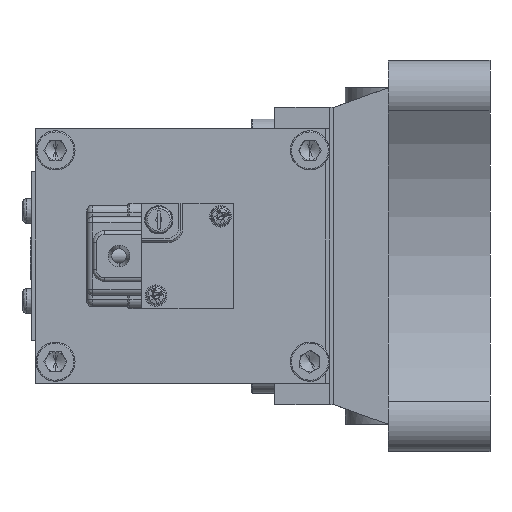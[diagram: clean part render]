
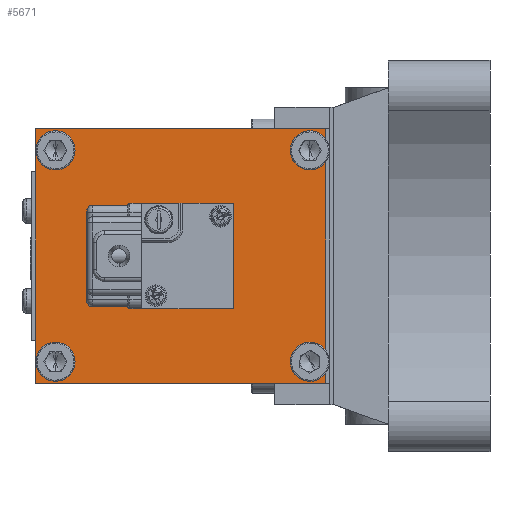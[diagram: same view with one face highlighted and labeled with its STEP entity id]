
A CAD part, left-side view. The second image highlights one B-rep face of the part: STEP entity #5671.
In plain terms, the highlighted planar face has unit normal (-1, 0, 0) as drawn and (1, 0, 0) by its records, which use the part's own axes.
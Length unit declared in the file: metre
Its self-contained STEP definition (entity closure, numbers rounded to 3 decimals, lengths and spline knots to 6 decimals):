
#32 = CIRCLE ( 'NONE', #3432, 0.003 ) ;
#374 = DIRECTION ( 'NONE',  ( 0., 1., 0. ) ) ;
#535 = CARTESIAN_POINT ( 'NONE',  ( 0.08, 0.071, -0.027 ) ) ;
#551 = FACE_BOUND ( 'NONE', #6384, .T. ) ;
#1330 = VERTEX_POINT ( 'NONE', #6380 ) ;
#1371 = DIRECTION ( 'NONE',  ( 1., 0., 0. ) ) ;
#1398 = AXIS2_PLACEMENT_3D ( 'NONE', #13191, #5459, #14524 ) ;
#1767 = DIRECTION ( 'NONE',  ( 1., 0., 0. ) ) ;
#1847 = DIRECTION ( 'NONE',  ( 0., 0., -1. ) ) ;
#1893 = AXIS2_PLACEMENT_3D ( 'NONE', #5288, #14343, #6581 ) ;
#1949 = ORIENTED_EDGE ( 'NONE', *, *, #5093, .F. ) ;
#2133 = ORIENTED_EDGE ( 'NONE', *, *, #5177, .F. ) ;
#2292 = CARTESIAN_POINT ( 'NONE',  ( 0.08, 0.071, -0.027 ) ) ;
#2567 = CARTESIAN_POINT ( 'NONE',  ( 0.08, 0.006, 0.03 ) ) ;
#2923 = EDGE_CURVE ( 'NONE', #9291, #12836, #5287, .T. ) ;
#2934 = CARTESIAN_POINT ( 'NONE',  ( 0.08, 0.039, 0.0325 ) ) ;
#2944 = CARTESIAN_POINT ( 'NONE',  ( 0.08, 0.006, -0.027 ) ) ;
#3211 = ORIENTED_EDGE ( 'NONE', *, *, #7673, .F. ) ;
#3432 = AXIS2_PLACEMENT_3D ( 'NONE', #2292, #11270, #3576 ) ;
#3576 = DIRECTION ( 'NONE',  ( 0., 0., -1. ) ) ;
#3618 = VERTEX_POINT ( 'NONE', #14677 ) ;
#3644 = CIRCLE ( 'NONE', #11912, 0.003 ) ;
#3844 = CARTESIAN_POINT ( 'NONE',  ( 0.08, 0.076, 0. ) ) ;
#3997 = VERTEX_POINT ( 'NONE', #7328 ) ;
#4124 = DIRECTION ( 'NONE',  ( 0., 0., 1. ) ) ;
#4218 = DIRECTION ( 'NONE',  ( 0., 0., -1. ) ) ;
#4295 = CARTESIAN_POINT ( 'NONE',  ( 0.08, 0.002, -0.0325 ) ) ;
#4369 = CARTESIAN_POINT ( 'NONE',  ( 0.08, 0.071, 0.03 ) ) ;
#5093 = EDGE_CURVE ( 'NONE', #3997, #12490, #6613, .T. ) ;
#5177 = EDGE_CURVE ( 'NONE', #12836, #9291, #9218, .T. ) ;
#5287 = CIRCLE ( 'NONE', #6450, 0.003 ) ;
#5288 = CARTESIAN_POINT ( 'NONE',  ( 0.08, 0.071, 0.027 ) ) ;
#5429 = CARTESIAN_POINT ( 'NONE',  ( 0.08, 0.002, 0. ) ) ;
#5459 = DIRECTION ( 'NONE',  ( 1., 0., 0. ) ) ;
#5663 = CARTESIAN_POINT ( 'NONE',  ( 0.08, 0.039, -0.0325 ) ) ;
#5671 = ADVANCED_FACE ( 'NONE', ( #7788, #13887, #551, #14727, #10425 ), #16134, .F. ) ;
#5727 = DIRECTION ( 'NONE',  ( 0., -1., 0. ) ) ;
#5900 = CIRCLE ( 'NONE', #6634, 0.003 ) ;
#6109 = ORIENTED_EDGE ( 'NONE', *, *, #11484, .F. ) ;
#6187 = EDGE_LOOP ( 'NONE', ( #16307, #11966 ) ) ;
#6205 = ORIENTED_EDGE ( 'NONE', *, *, #13717, .F. ) ;
#6380 = CARTESIAN_POINT ( 'NONE',  ( 0.08, 0.006, 0.024 ) ) ;
#6384 = EDGE_LOOP ( 'NONE', ( #10767, #15287 ) ) ;
#6450 = AXIS2_PLACEMENT_3D ( 'NONE', #2944, #11934, #4218 ) ;
#6581 = DIRECTION ( 'NONE',  ( 0., 0., -1. ) ) ;
#6613 = LINE ( 'NONE', #5663, #13487 ) ;
#6634 = AXIS2_PLACEMENT_3D ( 'NONE', #9441, #1767, #10739 ) ;
#6784 = CARTESIAN_POINT ( 'NONE',  ( 0.08, 0.006, -0.027 ) ) ;
#6890 = DIRECTION ( 'NONE',  ( 1., 0., 0. ) ) ;
#6916 = VERTEX_POINT ( 'NONE', #12354 ) ;
#6952 = DIRECTION ( 'NONE',  ( 0., 0., -1. ) ) ;
#7048 = VECTOR ( 'NONE', #4124, 1. ) ;
#7224 = EDGE_CURVE ( 'NONE', #16006, #6916, #15393, .T. ) ;
#7265 = VERTEX_POINT ( 'NONE', #15763 ) ;
#7306 = VERTEX_POINT ( 'NONE', #15815 ) ;
#7328 = CARTESIAN_POINT ( 'NONE',  ( 0.08, 0.076, -0.0325 ) ) ;
#7673 = EDGE_CURVE ( 'NONE', #7306, #3618, #3644, .T. ) ;
#7737 = CIRCLE ( 'NONE', #15552, 0.003 ) ;
#7788 = FACE_BOUND ( 'NONE', #6187, .T. ) ;
#8232 = EDGE_CURVE ( 'NONE', #12490, #7265, #10490, .T. ) ;
#8721 = LINE ( 'NONE', #2934, #11771 ) ;
#8955 = ORIENTED_EDGE ( 'NONE', *, *, #14948, .F. ) ;
#9057 = CARTESIAN_POINT ( 'NONE',  ( 0.08, 0.006, 0.027 ) ) ;
#9218 = CIRCLE ( 'NONE', #10248, 0.003 ) ;
#9291 = VERTEX_POINT ( 'NONE', #11889 ) ;
#9410 = ORIENTED_EDGE ( 'NONE', *, *, #2923, .F. ) ;
#9441 = CARTESIAN_POINT ( 'NONE',  ( 0.08, 0.006, 0.027 ) ) ;
#9527 = DIRECTION ( 'NONE',  ( 1., 0., 0. ) ) ;
#9691 = CIRCLE ( 'NONE', #1398, 0.003 ) ;
#10248 = AXIS2_PLACEMENT_3D ( 'NONE', #6784, #6890, #6952 ) ;
#10363 = DIRECTION ( 'NONE',  ( 0., 0., -1. ) ) ;
#10425 = FACE_OUTER_BOUND ( 'NONE', #12141, .T. ) ;
#10472 = AXIS2_PLACEMENT_3D ( 'NONE', #15217, #16357, #16386 ) ;
#10490 = LINE ( 'NONE', #5429, #7048 ) ;
#10739 = DIRECTION ( 'NONE',  ( 0., 0., -1. ) ) ;
#10767 = ORIENTED_EDGE ( 'NONE', *, *, #12216, .F. ) ;
#11270 = DIRECTION ( 'NONE',  ( 1., 0., 0. ) ) ;
#11350 = LINE ( 'NONE', #3844, #14438 ) ;
#11400 = EDGE_LOOP ( 'NONE', ( #9410, #2133 ) ) ;
#11437 = CARTESIAN_POINT ( 'NONE',  ( 0.08, 0.006, -0.024 ) ) ;
#11484 = EDGE_CURVE ( 'NONE', #14692, #3997, #11350, .T. ) ;
#11771 = VECTOR ( 'NONE', #374, 1. ) ;
#11889 = CARTESIAN_POINT ( 'NONE',  ( 0.08, 0.006, -0.03 ) ) ;
#11912 = AXIS2_PLACEMENT_3D ( 'NONE', #535, #9527, #1847 ) ;
#11934 = DIRECTION ( 'NONE',  ( 1., 0., 0. ) ) ;
#11966 = ORIENTED_EDGE ( 'NONE', *, *, #7224, .F. ) ;
#12141 = EDGE_LOOP ( 'NONE', ( #6109, #6205, #14782, #1949 ) ) ;
#12216 = EDGE_CURVE ( 'NONE', #1330, #13886, #5900, .T. ) ;
#12354 = CARTESIAN_POINT ( 'NONE',  ( 0.08, 0.071, 0.024 ) ) ;
#12490 = VERTEX_POINT ( 'NONE', #4295 ) ;
#12836 = VERTEX_POINT ( 'NONE', #11437 ) ;
#12885 = DIRECTION ( 'NONE',  ( 0., 0., -1. ) ) ;
#12901 = EDGE_CURVE ( 'NONE', #13886, #1330, #7737, .T. ) ;
#13191 = CARTESIAN_POINT ( 'NONE',  ( 0.08, 0.071, 0.027 ) ) ;
#13487 = VECTOR ( 'NONE', #5727, 1. ) ;
#13717 = EDGE_CURVE ( 'NONE', #7265, #14692, #8721, .T. ) ;
#13886 = VERTEX_POINT ( 'NONE', #2567 ) ;
#13887 = FACE_BOUND ( 'NONE', #14876, .T. ) ;
#14343 = DIRECTION ( 'NONE',  ( 1., 0., 0. ) ) ;
#14438 = VECTOR ( 'NONE', #12885, 1. ) ;
#14524 = DIRECTION ( 'NONE',  ( 0., 0., -1. ) ) ;
#14677 = CARTESIAN_POINT ( 'NONE',  ( 0.08, 0.071, -0.03 ) ) ;
#14689 = CARTESIAN_POINT ( 'NONE',  ( 0.08, 0.076, 0.0325 ) ) ;
#14692 = VERTEX_POINT ( 'NONE', #14689 ) ;
#14727 = FACE_BOUND ( 'NONE', #11400, .T. ) ;
#14782 = ORIENTED_EDGE ( 'NONE', *, *, #8232, .F. ) ;
#14876 = EDGE_LOOP ( 'NONE', ( #8955, #3211 ) ) ;
#14948 = EDGE_CURVE ( 'NONE', #3618, #7306, #32, .T. ) ;
#15207 = EDGE_CURVE ( 'NONE', #6916, #16006, #9691, .T. ) ;
#15217 = CARTESIAN_POINT ( 'NONE',  ( 0.08, 0.002, -0.0325 ) ) ;
#15287 = ORIENTED_EDGE ( 'NONE', *, *, #12901, .F. ) ;
#15393 = CIRCLE ( 'NONE', #1893, 0.003 ) ;
#15552 = AXIS2_PLACEMENT_3D ( 'NONE', #9057, #1371, #10363 ) ;
#15763 = CARTESIAN_POINT ( 'NONE',  ( 0.08, 0.002, 0.0325 ) ) ;
#15815 = CARTESIAN_POINT ( 'NONE',  ( 0.08, 0.071, -0.024 ) ) ;
#16006 = VERTEX_POINT ( 'NONE', #4369 ) ;
#16134 = PLANE ( 'NONE',  #10472 ) ;
#16307 = ORIENTED_EDGE ( 'NONE', *, *, #15207, .F. ) ;
#16357 = DIRECTION ( 'NONE',  ( -1., 0., 0. ) ) ;
#16386 = DIRECTION ( 'NONE',  ( 0., 0., 1. ) ) ;
